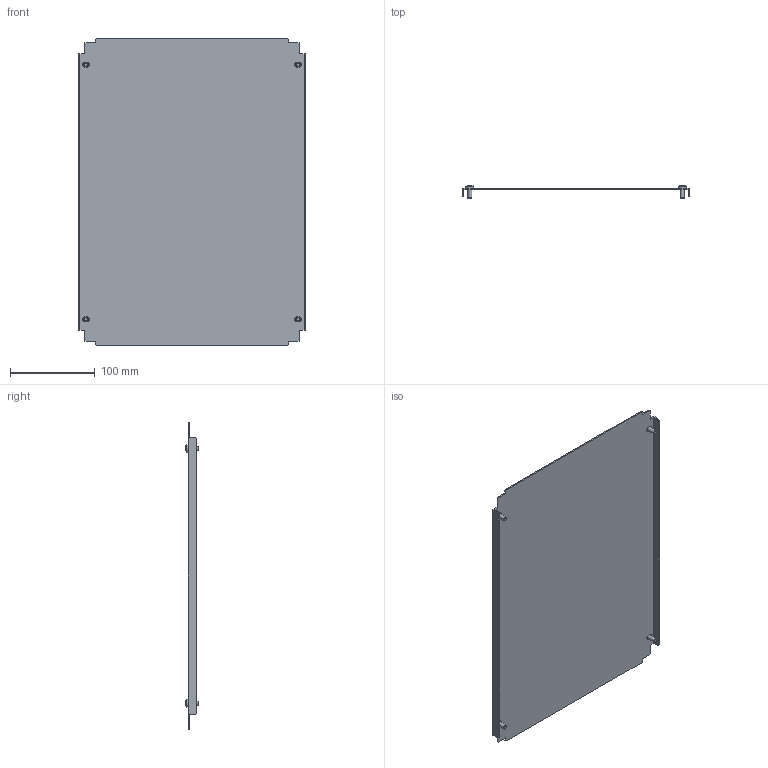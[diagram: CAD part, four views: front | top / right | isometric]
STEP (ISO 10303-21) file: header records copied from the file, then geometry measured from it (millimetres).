
FILE_DESCRIPTION (( 'STEP AP203' ), '1' );
FILE_NAME ('R5N1BP45.STEP', '2025-02-21T13:49:31', ( '' ), ( '' ), 'SwSTEP 2.0', 'SolidWorks 2022', '' );
FILE_SCHEMA (( 'CONFIG_CONTROL_DESIGN' ));
Length unit declared in the file: millimetre
Products named in the file (3): RB.1923.00.00.0_-20; R5N1BP45; M5x12 DIN 7500 C Torx Zinc_stright
Assembly tree (5 placements, depth 2):
  R5N1BP45
    RB.1923.00.00.0_-20
    M5x12 DIN 7500 C Torx Zinc_stright  x4
Bounding box: 268 x 15.56 x 362 mm (x, y, z)
Volume: 153158.6 mm3; surface area: 205711.7 mm2
Topology: 5 solids, 5 shells, 126 faces, 300 edges, 188 vertices
Faces by surface type: plane 86, cylinder 16, torus 8, cone 8, sphere 4, bspline 4
Full cylindrical faces by diameter (mm): 5 x4, 9.5 x4
Entity records: 2953 total; most frequent: CARTESIAN_POINT 624, ORIENTED_EDGE 400, DIRECTION 392, EDGE_CURVE 200, VECTOR 164, LINE 164, VERTEX_POINT 134, AXIS2_PLACEMENT_3D 114
